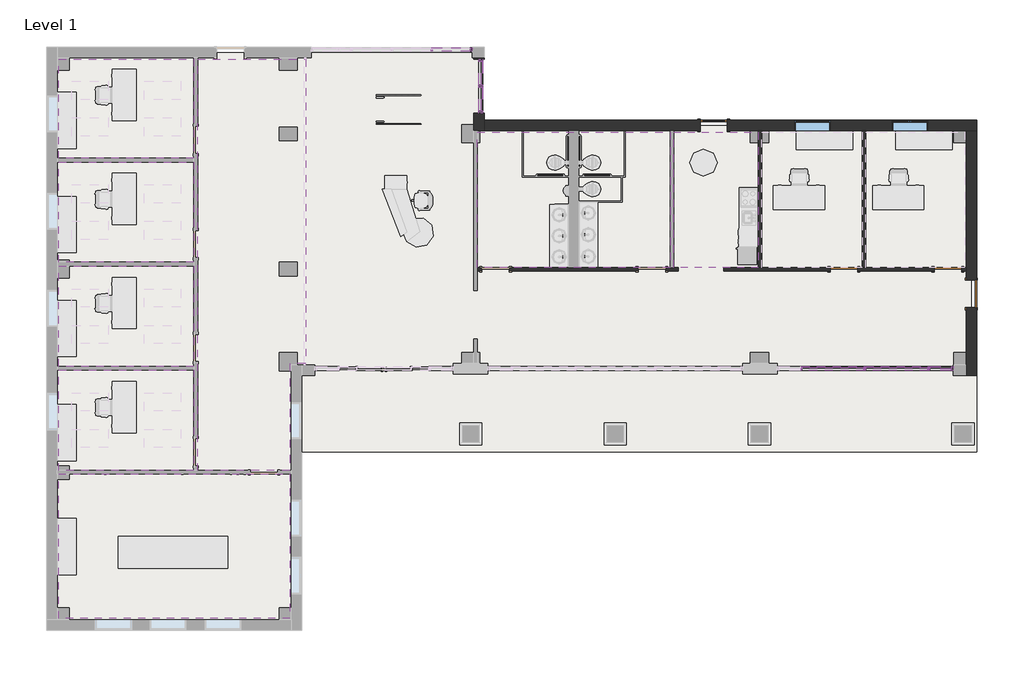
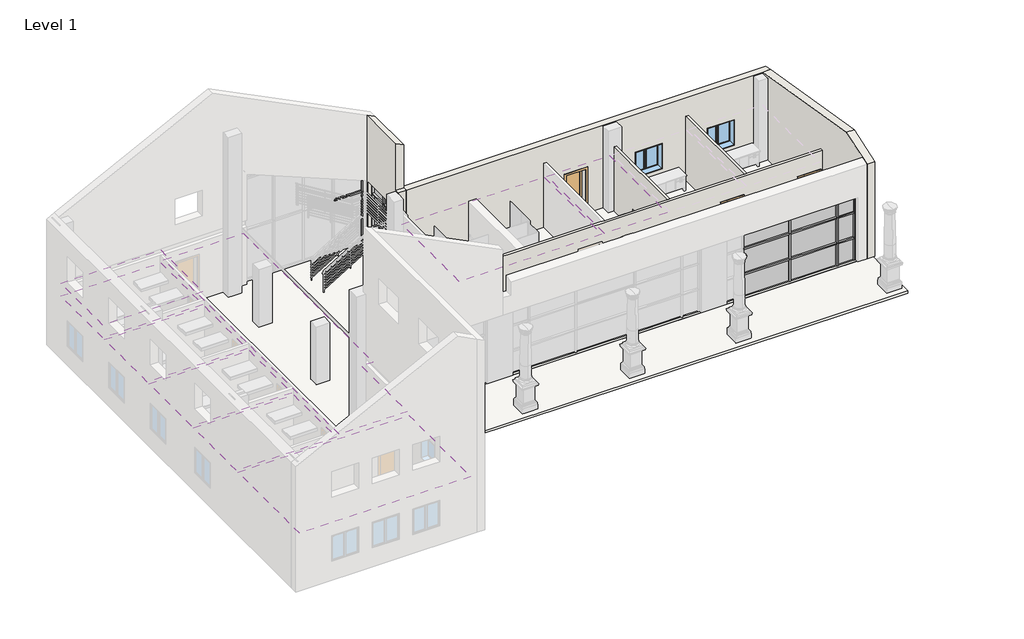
# One storey, part 3 of 8: 34 members, 13 plates, 9 coverings, 6 walls, 4 doors, 2 slabs, 2 windows.
"""IFC4 building model written with IfcOpenShell, lengths in millimetres."""

from ifc_helpers import new_model, si_unit, point, frame, origin, origin_with_axes, place, context, project, spatial, polyline, ellipse_curve, trimmed, outline, extrude, faceted_brep, transform, mapped, element, save
from ifc_brep_helpers import plane_surface, extruded_surface, advanced_brep
from components import door_cc5399a4, door_88503111, door_14e9a3b2, member_a715cb85, member_2b49869a, member_4f1c84db, member_a43dcf29, member_c4de40ee, member_75074519, member_3374d9b6, member_c17f1be2, member_f0fea5a5, member_ee409385, member_7fd7503d, member_c48a49bf, member_ba1b3d85, member_3ca69e07, member_338de68b, member_7b5ecba7, member_8ee6d85e, member_21124f0b, member_e196a3dc, system_panel_glazed_93fe6fa7, system_panel_glazed_6ce5e085, system_panel_glazed_6c402c5f, system_panel_glazed_28aac04d, system_panel_glazed_c8a6c6c5, system_panel_glazed_ef97d2b3, system_panel_glazed_2372a917, system_panel_solid_fb0cd2a2, window_75435c65

model = new_model("IFC4")

# Units and contexts
model_context = context("Model", 3, world=origin())
ifc_project = project(units=[si_unit("LENGTHUNIT", "METRE", prefix="MILLI")], contexts=[model_context])

# Site, building, storey
site = spatial("IfcSite", under=ifc_project)
building = spatial("IfcBuilding", under=site)
storey = spatial("IfcBuildingStorey", under=building, Name="Level 1", Elevation=0.0)

# Coverings
placement = place(None, origin())
element("IfcCovering", 1, ObjectType="2' x 4' ACT System", at=placement, inside=storey, context=model_context, shape_type="SweptSolid", body=[
    extrude(outline(polyline([(-9011.7016552, 7211.1980424), (-13532.9016552, 7211.1980424), (-13532.9016552, 10517.9605424), (-9011.7016552, 10517.9605424), (-9011.7016552, 7211.1980424)])), frame((0.0, 0.0, 3048.0), z_axis=(0.0, 0.0, 1.0), x_axis=(1.0, 0.0, 0.0)), (0.0, 0.0, 1.0), 57.15),
])
element("IfcCovering", 2, ObjectType="2' x 4' ACT System", at=placement, inside=storey, context=model_context, shape_type="SweptSolid", body=[
    extrude(outline(polyline([(-9011.7016552, 10517.9605424), (-9011.7016552, 7211.1980424), (-13532.9016552, 7211.1980424), (-13532.9016552, 10517.9605424), (-9011.7016552, 10517.9605424)]), holes=[polyline([(-11881.9016552, 9778.9792924), (-13101.1016552, 9778.9792924), (-13101.1016552, 9169.3792924), (-11881.9016552, 9169.3792924), (-11881.9016552, 9778.9792924)]), polyline([(-9443.5016552, 9778.9792924), (-10662.7016552, 9778.9792924), (-10662.7016552, 9169.3792924), (-9443.5016552, 9169.3792924), (-9443.5016552, 9778.9792924)]), polyline([(-9443.5016552, 8559.7792924), (-10662.7016552, 8559.7792924), (-10662.7016552, 7950.1792924), (-9443.5016552, 7950.1792924), (-9443.5016552, 8559.7792924)]), polyline([(-11881.9016552, 8559.7792924), (-13101.1016552, 8559.7792924), (-13101.1016552, 7950.1792924), (-11881.9016552, 7950.1792924), (-11881.9016552, 8559.7792924)])]), frame((0.0, 0.0, 2438.4), z_axis=(0.0, 0.0, 1.0), x_axis=(1.0, 0.0, 0.0)), (0.0, 0.0, 1.0), 57.15),
])
element("IfcCovering", 3, ObjectType="2' x 4' ACT System", at=placement, inside=storey, context=model_context, shape_type="SweptSolid", body=[
    extrude(outline(polyline([(-13532.9016552, 7087.3730424), (-9011.7016552, 7087.3730424), (-9011.7016552, 3729.8105424), (-13532.9016552, 3729.8105424), (-13532.9016552, 7087.3730424)]), holes=[polyline([(-11881.9016552, 5713.3917924), (-11881.9016552, 6322.9917924), (-13101.1016552, 6322.9917924), (-13101.1016552, 5713.3917924), (-11881.9016552, 5713.3917924)]), polyline([(-10662.7016552, 5713.3917924), (-9443.5016552, 5713.3917924), (-9443.5016552, 6322.9917924), (-10662.7016552, 6322.9917924), (-10662.7016552, 5713.3917924)]), polyline([(-10662.7016552, 4494.1917924), (-9443.5016552, 4494.1917924), (-9443.5016552, 5103.7917924), (-10662.7016552, 5103.7917924), (-10662.7016552, 4494.1917924)]), polyline([(-11881.9016552, 5103.7917924), (-13101.1016552, 5103.7917924), (-13101.1016552, 4494.1917924), (-11881.9016552, 4494.1917924), (-11881.9016552, 5103.7917924)])]), frame((0.0, 0.0, 2438.4), z_axis=(0.0, 0.0, 1.0), x_axis=(1.0, 0.0, 0.0)), (0.0, 0.0, 1.0), 57.15),
])
element("IfcCovering", 4, ObjectType="2' x 4' ACT System", at=placement, inside=storey, context=model_context, shape_type="SweptSolid", body=[
    extrude(outline(polyline([(-13532.9016552, 3605.9855424), (-9011.7016552, 3605.9855424), (-9011.7016552, 248.4230424), (-13532.9016552, 248.4230424), (-13532.9016552, 3605.9855424)]), holes=[polyline([(-11881.9016552, 2232.0042924), (-11881.9016552, 2841.6042924), (-13101.1016552, 2841.6042924), (-13101.1016552, 2232.0042924), (-11881.9016552, 2232.0042924)]), polyline([(-10662.7016552, 2232.0042924), (-9443.5016552, 2232.0042924), (-9443.5016552, 2841.6042924), (-10662.7016552, 2841.6042924), (-10662.7016552, 2232.0042924)]), polyline([(-10662.7016552, 1012.8042924), (-9443.5016552, 1012.8042924), (-9443.5016552, 1622.4042924), (-10662.7016552, 1622.4042924), (-10662.7016552, 1012.8042924)]), polyline([(-11881.9016552, 1622.4042924), (-13101.1016552, 1622.4042924), (-13101.1016552, 1012.8042924), (-11881.9016552, 1012.8042924), (-11881.9016552, 1622.4042924)])]), frame((0.0, 0.0, 2438.4), z_axis=(0.0, 0.0, 1.0), x_axis=(1.0, 0.0, 0.0)), (0.0, 0.0, 1.0), 57.15),
])
element("IfcCovering", 5, ObjectType="2' x 4' ACT System", at=placement, inside=storey, context=model_context, shape_type="SweptSolid", body=[
    extrude(outline(polyline([(-13532.9016552, 124.5980424), (-9011.7016552, 124.5980424), (-9011.7016552, -3232.9644576), (-13532.9016552, -3232.9644576), (-13532.9016552, 124.5980424)]), holes=[polyline([(-11881.9016552, -1249.3832076), (-11881.9016552, -639.7832076), (-13101.1016552, -639.7832076), (-13101.1016552, -1249.3832076), (-11881.9016552, -1249.3832076)]), polyline([(-10662.7016552, -1249.3832076), (-9443.5016552, -1249.3832076), (-9443.5016552, -639.7832076), (-10662.7016552, -639.7832076), (-10662.7016552, -1249.3832076)]), polyline([(-10662.7016552, -2468.5832076), (-9443.5016552, -2468.5832076), (-9443.5016552, -1858.9832076), (-10662.7016552, -1858.9832076), (-10662.7016552, -2468.5832076)]), polyline([(-11881.9016552, -1858.9832076), (-13101.1016552, -1858.9832076), (-13101.1016552, -2468.5832076), (-11881.9016552, -2468.5832076), (-11881.9016552, -1858.9832076)])]), frame((0.0, 0.0, 2438.4), z_axis=(0.0, 0.0, 1.0), x_axis=(1.0, 0.0, 0.0)), (0.0, 0.0, 1.0), 57.15),
])
element("IfcCovering", 6, ObjectType="5/8\" GWB on Mtl. Stud", at=placement, inside=storey, context=model_context, shape_type="SweptSolid", body=[
    extrude(outline(polyline([(-13532.9016552, -3356.7894576), (-5804.9516552, -3356.7894576), (-5804.9516552, -8182.7894576), (-13532.9016552, -8182.7894576), (-13532.9016552, -3356.7894576)])), frame((0.0, 0.0, 2438.4), z_axis=(0.0, 0.0, 1.0), x_axis=(1.0, 0.0, 0.0)), (0.0, 0.0, 1.0), 107.95),
])
element("IfcCovering", 7, ObjectType="5/8\" GWB on Mtl. Stud", at=placement, inside=storey, context=model_context, shape_type="SweptSolid", body=[
    extrude(outline(polyline([(6904.5733448, 3558.3605424), (465.6733448, 3558.3605424), (465.6733448, 8079.5605424), (6904.5733448, 8079.5605424), (6904.5733448, 3558.3605424)])), frame((0.0, 0.0, 2438.4), z_axis=(0.0, 0.0, 1.0), x_axis=(1.0, 0.0, 0.0)), (0.0, 0.0, 1.0), 107.95),
])
element("IfcCovering", 8, ObjectType="5/8\" GWB on Mtl. Stud", at=placement, inside=storey, context=model_context, shape_type="SweptSolid", body=[
    extrude(outline(polyline([(9847.7983448, 3558.3605424), (7028.3983448, 3558.3605424), (7028.3983448, 8079.5605424), (9847.7983448, 8079.5605424), (9847.7983448, 3558.3605424)])), frame((0.0, 0.0, 2438.4), z_axis=(0.0, 0.0, 1.0), x_axis=(1.0, 0.0, 0.0)), (0.0, 0.0, 1.0), 107.95),
])
element("IfcCovering", 9, ObjectType="5/8\" GWB on Mtl. Stud", at=placement, inside=storey, context=model_context, shape_type="Brep", body=[
    faceted_brep([(-5804.9516552, -3232.9644576, 2647.95), (-5804.9516552, 351.6105424, 2647.95), (-5323.9391552, 351.6105424, 2647.95), (-5273.1391552, 351.6105424, 2647.95), (-5273.1391552, 10517.9605424, 2647.95), (-5323.9391552, 10517.9605424, 2647.95), (-8887.8766552, 10517.9605424, 2647.95), (-8887.8766552, -3232.9644576, 2647.95), (-6160.5516552, 3729.8105424, 2647.95), (-5550.9516552, 3729.8105424, 2647.95), (-5550.9516552, 3272.6105424, 2647.95), (-6160.5516552, 3272.6105424, 2647.95), (-6160.5516552, 8257.3605424, 2647.95), (-5550.9516552, 8257.3605424, 2647.95), (-5550.9516552, 7800.1605424, 2647.95), (-6160.5516552, 7800.1605424, 2647.95), (-5804.9516552, 351.6105424, 2540.0), (-5804.9516552, -3232.9644576, 2540.0), (-8887.8766552, -3232.9644576, 2540.0), (-8887.8766552, 10517.9605424, 2540.0), (-5323.9391552, 10517.9605424, 2540.0), (-5273.1391552, 10517.9605424, 2540.0), (-5273.1391552, 351.6105424, 2540.0), (-5323.9391552, 351.6105424, 2540.0), (-5550.9516552, 3729.8105424, 2540.0), (-6160.5516552, 3729.8105424, 2540.0), (-6160.5516552, 3272.6105424, 2540.0), (-5550.9516552, 3272.6105424, 2540.0), (-5550.9516552, 8257.3605424, 2540.0), (-6160.5516552, 8257.3605424, 2540.0), (-6160.5516552, 7800.1605424, 2540.0), (-5550.9516552, 7800.1605424, 2540.0)], [[[0, 1, 2, 3, 4, 5, 6, 7], [8, 9, 10, 11], [12, 13, 14, 15]], [[16, 17, 18, 19, 20, 21, 22, 23], [24, 25, 26, 27], [28, 29, 30, 31]], [[1, 0, 17, 16]], [[3, 2, 1, 16, 23, 22]], [[4, 3, 22, 21]], [[6, 5, 4, 21, 20, 19]], [[7, 6, 19, 18]], [[0, 7, 18, 17]], [[24, 9, 8, 25]], [[25, 8, 11, 26]], [[26, 11, 10, 27]], [[9, 24, 27, 10]], [[28, 13, 12, 29]], [[29, 12, 15, 30]], [[30, 15, 14, 31]], [[13, 28, 31, 14]]]),
])

# Doors
door_shape = door_cc5399a4(model_context)
element("IfcDoor", 10, ObjectType="Single-Flush : 36\" x 84\"", at=placement, inside=storey, context=model_context, shape_type="MappedRepresentation", body=[
    mapped(door_shape, transform((16977.2608448, 2672.5355424, 0.0), x_axis=(0.0, 1.0, 0.0), y_axis=(-1.0, 0.0, 0.0), z_axis=(0.0, 0.0, 1.0))),
])
door_2_shape = door_88503111(model_context)
element("IfcDoor", 11, ObjectType="Single-Flush : 36\" x 84\"", at=placement, inside=storey, context=model_context, shape_type="MappedRepresentation", body=[
    mapped(door_2_shape, transform((16191.4483448, 3496.4480424, 0.0), x_axis=(1.0, 0.0, 0.0), y_axis=(0.0, 1.0, 0.0), z_axis=(0.0, 0.0, 1.0))),
])
element("IfcDoor", 12, ObjectType="Single-Flush : 36\" x 84\"", at=placement, inside=storey, context=model_context, shape_type="MappedRepresentation", body=[
    mapped(door_2_shape, transform((12714.8233448, 3496.4480424, 0.0), x_axis=(1.0, 0.0, 0.0), y_axis=(0.0, 1.0, 0.0), z_axis=(0.0, 0.0, 1.0))),
])
door_3_shape = door_14e9a3b2(model_context)
element("IfcDoor", 13, ObjectType="Single-Glass 1 : 36\" x 84\"", at=placement, inside=storey, context=model_context, shape_type="MappedRepresentation", body=[
    mapped(door_3_shape, transform((8365.0733448, 8306.5730424, 0.0), x_axis=(1.0, 0.0, 0.0), y_axis=(0.0, 1.0, 0.0), z_axis=(0.0, 0.0, 1.0))),
])

# Members
member_shape = member_a715cb85(model_context)
element("IfcMember", 14, ObjectType="Rectangular Mullion : 2.5\" x 5\" Rectangular", at=placement, inside=storey, context=model_context, shape_type="MappedRepresentation", body=[
    mapped(member_shape, transform((13414.9108448, 175.3980424, 0.0), x_axis=(1.0, 0.0, 0.0), y_axis=(0.0, -1.0, 0.0), z_axis=(0.0, 0.0, -1.0))),
])
element("IfcMember", 15, ObjectType="Rectangular Mullion : 2.5\" x 5\" Rectangular", at=placement, inside=storey, context=model_context, shape_type="MappedRepresentation", body=[
    mapped(member_shape, transform((15548.5108448, 175.3980424, 0.0), x_axis=(1.0, 0.0, 0.0), y_axis=(0.0, -1.0, 0.0), z_axis=(0.0, 0.0, -1.0))),
])
member_2_shape = member_2b49869a(model_context)
element("IfcMember", 16, ObjectType="Rectangular Mullion : 2.5\" x 5\" Rectangular", at=placement, inside=storey, context=model_context, shape_type="MappedRepresentation", body=[
    mapped(member_2_shape, transform((13414.9108448, 175.3980424, 1066.8), x_axis=(1.0, 0.0, 0.0), y_axis=(0.0, -1.0, 0.0), z_axis=(0.0, 0.0, -1.0))),
])
element("IfcMember", 17, ObjectType="Rectangular Mullion : 2.5\" x 5\" Rectangular", at=placement, inside=storey, context=model_context, shape_type="MappedRepresentation", body=[
    mapped(member_2_shape, transform((15548.5108448, 175.3980424, 1066.8), x_axis=(1.0, 0.0, 0.0), y_axis=(0.0, -1.0, 0.0), z_axis=(0.0, 0.0, -1.0))),
])
member_3_shape = member_4f1c84db(model_context)
element("IfcMember", 18, ObjectType="Rectangular Mullion : 2.5\" x 5\" Rectangular", at=placement, inside=storey, context=model_context, shape_type="MappedRepresentation", body=[
    mapped(member_3_shape, transform((15516.7608448, 175.3980424, 2286.0), x_axis=(0.0, 0.0, 1.0), y_axis=(0.0, -1.0, 0.0), z_axis=(1.0, 0.0, 0.0))),
])
element("IfcMember", 19, ObjectType="Rectangular Mullion : 2.5\" x 5\" Rectangular", at=placement, inside=storey, context=model_context, shape_type="MappedRepresentation", body=[
    mapped(member_3_shape, transform((13383.1608448, 175.3980424, 2286.0), x_axis=(0.0, 0.0, 1.0), y_axis=(0.0, -1.0, 0.0), z_axis=(1.0, 0.0, 0.0))),
])
element("IfcMember", 20, ObjectType="Rectangular Mullion : 2.5\" x 5\" Rectangular", at=placement, inside=storey, context=model_context, shape_type="MappedRepresentation", body=[
    mapped(member_3_shape, transform((13383.1608448, 175.3980424, 1066.8), x_axis=(0.0, 0.0, 1.0), y_axis=(0.0, -1.0, 0.0), z_axis=(1.0, 0.0, 0.0))),
])
element("IfcMember", 21, ObjectType="Rectangular Mullion : 2.5\" x 5\" Rectangular", at=placement, inside=storey, context=model_context, shape_type="MappedRepresentation", body=[
    mapped(member_3_shape, transform((15516.7608448, 175.3980424, 1066.8), x_axis=(0.0, 0.0, 1.0), y_axis=(0.0, -1.0, 0.0), z_axis=(1.0, 0.0, 0.0))),
])
member_4_shape = member_a43dcf29(model_context)
element("IfcMember", 22, ObjectType="Rectangular Mullion : 2.5\" x 5\" Rectangular", at=placement, inside=storey, context=model_context, shape_type="MappedRepresentation", body=[
    mapped(member_4_shape, transform((16304.1608448, 175.3980424, 2286.0), x_axis=(0.0, 0.0, 1.0), y_axis=(0.0, -1.0, 0.0), z_axis=(1.0, 0.0, 0.0))),
])
element("IfcMember", 23, ObjectType="Rectangular Mullion : 2.5\" x 5\" Rectangular", at=placement, inside=storey, context=model_context, shape_type="MappedRepresentation", body=[
    mapped(member_4_shape, transform((16304.1608448, 175.3980424, 1066.8), x_axis=(0.0, 0.0, 1.0), y_axis=(0.0, -1.0, 0.0), z_axis=(1.0, 0.0, 0.0))),
])
member_5_shape = member_c4de40ee(model_context)
element("IfcMember", 24, ObjectType="Rectangular Mullion : 2.5\" x 5\" Rectangular", at=placement, inside=storey, context=model_context, shape_type="MappedRepresentation", body=[
    mapped(member_5_shape, transform((16367.6608448, 175.3980424, 0.0), x_axis=(1.0, 0.0, 0.0), y_axis=(0.0, -1.0, 0.0), z_axis=(0.0, 0.0, -1.0))),
])
member_6_shape = member_75074519(model_context)
element("IfcMember", 25, ObjectType="Rectangular Mullion : 2.5\" x 5\" Rectangular", at=placement, inside=storey, context=model_context, shape_type="MappedRepresentation", body=[
    mapped(member_6_shape, transform((16367.6608448, 175.3980424, 1066.8), x_axis=(1.0, 0.0, 0.0), y_axis=(0.0, -1.0, 0.0), z_axis=(0.0, 0.0, -1.0))),
])
member_7_shape = member_3374d9b6(model_context)
element("IfcMember", 26, ObjectType="Rectangular Mullion : 2.5\" x 5\" Rectangular", at=placement, inside=storey, context=model_context, shape_type="MappedRepresentation", body=[
    mapped(member_7_shape, transform((15548.5108448, 175.3980424, 3060.0), x_axis=(0.0, 0.0, 1.0), y_axis=(0.0, -1.0, 0.0), z_axis=(1.0, 0.0, 0.0))),
])
element("IfcMember", 27, ObjectType="Rectangular Mullion : 2.5\" x 5\" Rectangular", at=placement, inside=storey, context=model_context, shape_type="MappedRepresentation", body=[
    mapped(member_7_shape, transform((13414.9108448, 175.3980424, 3060.0), x_axis=(0.0, 0.0, 1.0), y_axis=(0.0, -1.0, 0.0), z_axis=(1.0, 0.0, 0.0))),
])
member_8_shape = member_c17f1be2(model_context)
element("IfcMember", 28, ObjectType="Rectangular Mullion : 2.5\" x 5\" Rectangular", at=placement, inside=storey, context=model_context, shape_type="MappedRepresentation", body=[
    mapped(member_8_shape, transform((16367.6608448, 175.3980424, 3060.0), x_axis=(0.0, 0.0, 1.0), y_axis=(0.0, -1.0, 0.0), z_axis=(1.0, 0.0, 0.0))),
])
member_9_shape = member_f0fea5a5(model_context)
element("IfcMember", 29, ObjectType="Rectangular Mullion : 2.5\" x 5\" Rectangular", at=placement, inside=storey, context=model_context, shape_type="MappedRepresentation", body=[
    mapped(member_9_shape, transform((581.5608448, 9615.4667924, 0.0), x_axis=(0.0, -1.0, 0.0), y_axis=(-1.0, 0.0, 0.0), z_axis=(0.0, 0.0, -1.0))),
])
member_10_shape = member_ee409385(model_context)
element("IfcMember", 30, ObjectType="Rectangular Mullion : 2.5\" x 5\" Rectangular", at=placement, inside=storey, context=model_context, shape_type="MappedRepresentation", body=[
    mapped(member_10_shape, transform((291.0483448, 10846.5730424, 0.0), x_axis=(1.0, 0.0, 0.0), y_axis=(0.0, -1.0, 0.0), z_axis=(0.0, 0.0, -1.0))),
])
element("IfcMember", 31, ObjectType="Rectangular Mullion : 2.5\" x 5\" Rectangular", at=placement, inside=storey, context=model_context, shape_type="MappedRepresentation", body=[
    mapped(member_10_shape, transform((581.5608448, 8712.9730424, 0.0), x_axis=(0.0, -1.0, 0.0), y_axis=(-1.0, 0.0, 0.0), z_axis=(0.0, 0.0, -1.0))),
])
element("IfcMember", 32, ObjectType="Rectangular Mullion : 2.5\" x 5\" Rectangular", at=placement, inside=storey, context=model_context, shape_type="MappedRepresentation", body=[
    mapped(member_10_shape, transform((581.5608448, 10517.9605424, 2438.4), x_axis=(0.0, 1.0, 0.0), y_axis=(-1.0, 0.0, 0.0), z_axis=(0.0, 0.0, 1.0))),
])
member_11_shape = member_7fd7503d(model_context)
element("IfcMember", 33, ObjectType="Rectangular Mullion : 2.5\" x 5\" Rectangular", at=placement, inside=storey, context=model_context, shape_type="MappedRepresentation", body=[
    mapped(member_11_shape, transform((581.5608448, 8776.4730424, 3060.0), x_axis=(0.0, 0.0, 1.0), y_axis=(-1.0, 0.0, 0.0), z_axis=(0.0, -1.0, 0.0))),
])
element("IfcMember", 34, ObjectType="Rectangular Mullion : 2.5\" x 5\" Rectangular", at=placement, inside=storey, context=model_context, shape_type="MappedRepresentation", body=[
    mapped(member_11_shape, transform((581.5608448, 9647.2167924, 3060.0), x_axis=(0.0, 0.0, 1.0), y_axis=(-1.0, 0.0, 0.0), z_axis=(0.0, -1.0, 0.0))),
])
element("IfcMember", 35, ObjectType="Rectangular Mullion : 2.5\" x 5\" Rectangular", at=placement, inside=storey, context=model_context, shape_type="MappedRepresentation", body=[
    mapped(member_11_shape, transform((581.5608448, 10454.4605424, 0.0), x_axis=(0.0, 0.0, -1.0), y_axis=(-1.0, 0.0, 0.0), z_axis=(0.0, 1.0, 0.0))),
])
element("IfcMember", 36, ObjectType="Rectangular Mullion : 2.5\" x 5\" Rectangular", at=placement, inside=storey, context=model_context, shape_type="MappedRepresentation", body=[
    mapped(member_11_shape, transform((581.5608448, 9583.7167924, 0.0), x_axis=(0.0, 0.0, -1.0), y_axis=(-1.0, 0.0, 0.0), z_axis=(0.0, 1.0, 0.0))),
])
member_12_shape = member_c48a49bf(model_context)
element("IfcMember", 37, ObjectType="Rectangular Mullion : 2.5\" x 5\" Rectangular", at=placement, inside=storey, context=model_context, shape_type="MappedRepresentation", body=[
    mapped(member_12_shape, transform((581.5608448, 9647.2167924, 2438.4), x_axis=(0.0, 0.0, 1.0), y_axis=(-1.0, 0.0, 0.0), z_axis=(0.0, -1.0, 0.0))),
])
element("IfcMember", 38, ObjectType="Rectangular Mullion : 2.5\" x 5\" Rectangular", at=placement, inside=storey, context=model_context, shape_type="MappedRepresentation", body=[
    mapped(member_12_shape, transform((581.5608448, 8776.4730424, 2438.4), x_axis=(0.0, 0.0, 1.0), y_axis=(-1.0, 0.0, 0.0), z_axis=(0.0, -1.0, 0.0))),
])
member_13_shape = member_ba1b3d85(model_context)
element("IfcMember", 39, ObjectType="Rectangular Mullion : 2.5\" x 5\" Rectangular", at=placement, inside=storey, context=model_context, shape_type="MappedRepresentation", body=[
    mapped(member_13_shape, transform((227.5483448, 10846.5730424, 2438.4), x_axis=(0.0, 0.0, 1.0), y_axis=(0.0, -1.0, 0.0), z_axis=(1.0, 0.0, 0.0))),
])
member_14_shape = member_3ca69e07(model_context)
element("IfcMember", 40, ObjectType="Rectangular Mullion : 2.5\" x 5\" Rectangular", at=placement, inside=storey, context=model_context, shape_type="MappedRepresentation", body=[
    mapped(member_14_shape, transform((13414.9108448, 175.3980424, 2286.0), x_axis=(1.0, 0.0, 0.0), y_axis=(0.0, -1.0, 0.0), z_axis=(0.0, 0.0, -1.0))),
])
element("IfcMember", 41, ObjectType="Rectangular Mullion : 2.5\" x 5\" Rectangular", at=placement, inside=storey, context=model_context, shape_type="MappedRepresentation", body=[
    mapped(member_14_shape, transform((15548.5108448, 175.3980424, 2286.0), x_axis=(1.0, 0.0, 0.0), y_axis=(0.0, -1.0, 0.0), z_axis=(0.0, 0.0, -1.0))),
])
member_15_shape = member_338de68b(model_context)
element("IfcMember", 42, ObjectType="Rectangular Mullion : 2.5\" x 5\" Rectangular", at=placement, inside=storey, context=model_context, shape_type="MappedRepresentation", body=[
    mapped(member_15_shape, transform((16367.6608448, 175.3980424, 2286.0), x_axis=(1.0, 0.0, 0.0), y_axis=(0.0, -1.0, 0.0), z_axis=(0.0, 0.0, -1.0))),
])
member_16_shape = member_7b5ecba7(model_context)
element("IfcMember", 43, ObjectType="Rectangular Mullion : 2.5\" x 5\" Rectangular", at=placement, inside=storey, context=model_context, shape_type="MappedRepresentation", body=[
    mapped(member_16_shape, transform((291.0483448, 10846.5730424, 3060.0), x_axis=(0.37916366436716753, 0.0, 0.9253296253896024), y_axis=(0.0, -1.0, 0.0), z_axis=(0.9253296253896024, 0.0, -0.37916366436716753))),
])
member_17_shape = member_8ee6d85e(model_context)
element("IfcMember", 44, ObjectType="Rectangular Mullion : 2.5\" x 5\" Rectangular", at=placement, inside=storey, context=model_context, shape_type="MappedRepresentation", body=[
    mapped(member_17_shape, transform((291.0483448, 10846.5730424, 2438.4), x_axis=(1.0, 0.0, 0.0), y_axis=(0.0, -1.0, 0.0), z_axis=(0.0, 0.0, -1.0))),
])
member_18_shape = member_21124f0b(model_context)
element("IfcMember", 45, ObjectType="Rectangular Mullion : 2.5\" x 5\" Rectangular", at=placement, inside=storey, context=model_context, shape_type="MappedRepresentation", body=[
    mapped(member_18_shape, transform((581.5608448, 9615.4667924, 2438.4), x_axis=(0.0, -1.0, 0.0), y_axis=(-1.0, 0.0, 0.0), z_axis=(0.0, 0.0, -1.0))),
])
member_19_shape = member_e196a3dc(model_context)
element("IfcMember", 46, ObjectType="Rectangular Mullion : 2.5\" x 5\" Rectangular", at=placement, inside=storey, context=model_context, shape_type="MappedRepresentation", body=[
    mapped(member_19_shape, transform((581.5608448, 8712.9730424, 2438.4), x_axis=(0.0, -1.0, 0.0), y_axis=(-1.0, 0.0, 0.0), z_axis=(0.0, 0.0, -1.0))),
])
element("IfcMember", 47, ObjectType="Rectangular Mullion : 2.5\" x 5\" Rectangular", at=placement, inside=storey, context=model_context, shape_type="MappedRepresentation", body=[
    mapped(member_19_shape, transform((581.5608448, 10517.9605424, 3060.0), x_axis=(0.0, 1.0, 0.0), y_axis=(-1.0, 0.0, 0.0), z_axis=(0.0, 0.0, 1.0))),
])

# Plates
system_panel_glazed_shape = system_panel_glazed_93fe6fa7(model_context)
element("IfcPlate", 48, ObjectType="System Panel : Glazed", at=placement, inside=storey, context=model_context, shape_type="MappedRepresentation", body=[
    mapped(system_panel_glazed_shape, transform((12348.1108448, 175.3980424, 0.0), x_axis=(1.0, 0.0, 0.0), y_axis=(0.0, 1.0, 0.0), z_axis=(0.0, 0.0, 1.0))),
])
element("IfcPlate", 49, ObjectType="System Panel : Glazed", at=placement, inside=storey, context=model_context, shape_type="MappedRepresentation", body=[
    mapped(system_panel_glazed_shape, transform((14481.7108448, 175.3980424, 0.0), x_axis=(1.0, 0.0, 0.0), y_axis=(0.0, 1.0, 0.0), z_axis=(0.0, 0.0, 1.0))),
])
system_panel_glazed_2_shape = system_panel_glazed_6ce5e085(model_context)
element("IfcPlate", 50, ObjectType="System Panel : Glazed", at=placement, inside=storey, context=model_context, shape_type="MappedRepresentation", body=[
    mapped(system_panel_glazed_2_shape, transform((12348.1108448, 175.3980424, 1098.55), x_axis=(1.0, 0.0, 0.0), y_axis=(0.0, 1.0, 0.0), z_axis=(0.0, 0.0, 1.0))),
])
element("IfcPlate", 51, ObjectType="System Panel : Glazed", at=placement, inside=storey, context=model_context, shape_type="MappedRepresentation", body=[
    mapped(system_panel_glazed_2_shape, transform((14481.7108448, 175.3980424, 1098.55), x_axis=(1.0, 0.0, 0.0), y_axis=(0.0, 1.0, 0.0), z_axis=(0.0, 0.0, 1.0))),
])
system_panel_glazed_3_shape = system_panel_glazed_6c402c5f(model_context)
element("IfcPlate", 52, ObjectType="System Panel : Glazed", at=placement, inside=storey, context=model_context, shape_type="MappedRepresentation", body=[
    mapped(system_panel_glazed_3_shape, transform((15942.2108448, 175.3980424, 0.0), x_axis=(1.0, 0.0, 0.0), y_axis=(0.0, 1.0, 0.0), z_axis=(0.0, 0.0, 1.0))),
])
system_panel_glazed_4_shape = system_panel_glazed_28aac04d(model_context)
element("IfcPlate", 53, ObjectType="System Panel : Glazed", at=placement, inside=storey, context=model_context, shape_type="MappedRepresentation", body=[
    mapped(system_panel_glazed_4_shape, transform((15942.2108448, 175.3980424, 1098.55), x_axis=(1.0, 0.0, 0.0), y_axis=(0.0, 1.0, 0.0), z_axis=(0.0, 0.0, 1.0))),
])
system_panel_glazed_5_shape = system_panel_glazed_c8a6c6c5(model_context)
element("IfcPlate", 54, ObjectType="System Panel : Glazed", at=placement, inside=storey, context=model_context, shape_type="MappedRepresentation", body=[
    mapped(system_panel_glazed_5_shape, transform((581.5608448, 10050.8386674, 63.5), x_axis=(0.0, -1.0, 0.0), y_axis=(1.0, 0.0, 0.0), z_axis=(0.0, 0.0, 1.0))),
])
element("IfcPlate", 55, ObjectType="System Panel : Glazed", at=placement, inside=storey, context=model_context, shape_type="MappedRepresentation", body=[
    mapped(system_panel_glazed_5_shape, transform((581.5608448, 9180.0949174, 63.5), x_axis=(0.0, -1.0, 0.0), y_axis=(1.0, 0.0, 0.0), z_axis=(0.0, 0.0, 1.0))),
])
system_panel_glazed_6_shape = system_panel_glazed_ef97d2b3(model_context)
element("IfcPlate", 56, ObjectType="System Panel : Glazed", at=placement, inside=storey, context=model_context, shape_type="MappedRepresentation", body=[
    mapped(system_panel_glazed_6_shape, transform((12348.1108448, 175.3980424, 2317.75), x_axis=(1.0, 0.0, 0.0), y_axis=(0.0, 1.0, 0.0), z_axis=(0.0, 0.0, 1.0))),
])
element("IfcPlate", 57, ObjectType="System Panel : Glazed", at=placement, inside=storey, context=model_context, shape_type="MappedRepresentation", body=[
    mapped(system_panel_glazed_6_shape, transform((14481.7108448, 175.3980424, 2317.75), x_axis=(1.0, 0.0, 0.0), y_axis=(0.0, 1.0, 0.0), z_axis=(0.0, 0.0, 1.0))),
])
system_panel_glazed_7_shape = system_panel_glazed_2372a917(model_context)
element("IfcPlate", 58, ObjectType="System Panel : Glazed", at=placement, inside=storey, context=model_context, shape_type="MappedRepresentation", body=[
    mapped(system_panel_glazed_7_shape, transform((581.5608448, 10050.8386674, 2470.15), x_axis=(0.0, -1.0, 0.0), y_axis=(1.0, 0.0, 0.0), z_axis=(0.0, 0.0, 1.0))),
])
element("IfcPlate", 59, ObjectType="System Panel : Glazed", at=placement, inside=storey, context=model_context, shape_type="MappedRepresentation", body=[
    mapped(system_panel_glazed_7_shape, transform((581.5608448, 9180.0949174, 2470.15), x_axis=(0.0, -1.0, 0.0), y_axis=(1.0, 0.0, 0.0), z_axis=(0.0, 0.0, 1.0))),
])
system_panel_solid_shape = system_panel_solid_fb0cd2a2(model_context)
element("IfcPlate", 60, ObjectType="System Panel : Solid", at=placement, inside=storey, context=model_context, shape_type="MappedRepresentation", body=[
    mapped(system_panel_solid_shape, transform((15942.2108448, 175.3980424, 2317.75), x_axis=(1.0, 0.0, 0.0), y_axis=(0.0, 1.0, 0.0), z_axis=(0.0, 0.0, 1.0))),
])

# Slabs
element("IfcSlab", 61, ObjectType="4\" Concrete Slab", at=placement, inside=storey, context=model_context, shape_type="SweptSolid", body=[
    extrude(outline(polyline([(506.9483448, 10733.8605424), (506.9483448, 8295.4605424), (16966.1483448, 8295.4605424), (16966.1483448, 135.7105424), (518.0608448, 135.7105424), (-5589.0516552, 135.7105424), (-5589.0516552, -8398.6894576), (-13748.8016552, -8398.6894576), (-13748.8016552, 10733.8605424), (506.9483448, 10733.8605424)])), frame((0.0, 0.0, -101.6), z_axis=(0.0, 0.0, 1.0), x_axis=(1.0, 0.0, 0.0)), (0.0, 0.0, 1.0), 101.6),
])
element("IfcSlab", 62, ObjectType="4\" Concrete Slab", at=placement, inside=storey, context=model_context, shape_type="SweptSolid", body=[
    extrude(outline(polyline([(17153.4733448, 124.5980424), (17153.4733448, -2618.6019576), (-5401.7266552, -2618.6019576), (-5401.7266552, 124.5980424), (17153.4733448, 124.5980424)])), frame((0.0, 0.0, -203.2), z_axis=(0.0, 0.0, 1.0), x_axis=(1.0, 0.0, 0.0)), (0.0, 0.0, 1.0), 101.6),
])

# Walls
element("IfcWall", 63, ObjectType="Exterior - Brick on Mtl. Stud", at=placement, inside=storey, context=model_context, shape_type="Brep", body=[
    faceted_brep([(341.8483448, 8306.5730424, 6182.55), (341.8483448, 10568.7605424, 6182.55), (341.8483448, 10568.7605424, 0.0), (341.8483448, 10517.9605424, 0.0), (341.8483448, 10517.9605424, 3060.0), (341.8483448, 8712.9730424, 3060.0), (341.8483448, 8712.9730424, 0.0), (341.8483448, 8333.5605424, 0.0), (341.8483448, 8130.3605424, 0.0), (341.8483448, 8130.3605424, 3060.0), (341.8483448, 8130.3605424, 3958.7375), (341.8483448, 8306.5730424, 3958.7375), (694.2733448, 10568.7605424, 6006.3375), (694.2733448, 8306.5730424, 6006.3375), (694.2733448, 8306.5730424, 3958.7375), (694.2733448, 8130.3605424, 3958.7375), (694.2733448, 8130.3605424, 3060.0), (694.2733448, 8130.3605424, 0.0), (694.2733448, 8482.7855424, 0.0), (694.2733448, 8712.9730424, 0.0), (694.2733448, 8712.9730424, 3060.0), (694.2733448, 10517.9605424, 3060.0), (694.2733448, 10517.9605424, 0.0), (694.2733448, 10568.7605424, 0.0), (545.0483448, 8130.3605424, 0.0), (465.6733448, 8130.3605424, 0.0)], [[[0, 1, 2, 3, 4, 5, 6, 7, 8, 9, 10, 11]], [[12, 13, 14, 15, 16, 17, 18, 19, 20, 21, 22, 23]], [[2, 23, 22, 3]], [[17, 24, 25, 8, 7, 6, 19, 18]], [[1, 0, 13, 12]], [[13, 0, 11, 14]], [[14, 11, 10, 15]], [[8, 25, 24, 17, 16, 15, 10, 9]], [[2, 1, 12, 23]], [[21, 4, 3, 22]], [[4, 21, 20, 5]], [[5, 20, 19, 6]]]),
])
element("IfcWall", 64, ObjectType="Exterior - Brick on Mtl. Stud", at=placement, inside=storey, context=model_context, shape_type="Brep", body=[
    faceted_brep([(8822.2733448, 8130.3605424, 2133.6), (8822.2733448, 8130.3605424, 0.0), (9587.4483448, 8130.3605424, 0.0), (9847.7983448, 8130.3605424, 0.0), (9971.6233448, 8130.3605424, 0.0), (10197.0483448, 8130.3605424, 0.0), (13324.4233448, 8130.3605424, 0.0), (13448.2483448, 8130.3605424, 0.0), (16394.6483448, 8130.3605424, 0.0), (16801.0483448, 8130.3605424, 0.0), (17153.4733448, 8130.3605424, 0.0), (17153.4733448, 8130.3605424, 3958.7375), (16801.0483448, 8130.3605424, 3958.7375), (694.2733448, 8130.3605424, 3958.7375), (694.2733448, 8130.3605424, 0.0), (3513.6733448, 8130.3605424, 0.0), (3856.5733448, 8130.3605424, 0.0), (6904.5733448, 8130.3605424, 0.0), (7028.3983448, 8130.3605424, 0.0), (7907.8733448, 8130.3605424, 0.0), (7907.8733448, 8130.3605424, 2133.6), (12276.6733448, 8130.3605424, 2133.6), (12276.6733448, 8130.3605424, 914.4), (11057.4733448, 8130.3605424, 914.4), (11057.4733448, 8130.3605424, 2133.6), (15527.8733448, 8130.3605424, 2133.6), (15527.8733448, 8130.3605424, 914.4), (14308.6733448, 8130.3605424, 914.4), (14308.6733448, 8130.3605424, 2133.6), (17153.4733448, 8482.7855424, 0.0), (8822.2733448, 8482.7855424, 0.0), (8822.2733448, 8482.7855424, 2133.6), (7907.8733448, 8482.7855424, 2133.6), (7907.8733448, 8482.7855424, 0.0), (694.2733448, 8482.7855424, 0.0), (694.2733448, 8482.7855424, 3900.0), (17153.4733448, 8482.7855424, 3900.0), (12276.6733448, 8482.7855424, 2133.6), (11057.4733448, 8482.7855424, 2133.6), (11057.4733448, 8482.7855424, 914.4), (12276.6733448, 8482.7855424, 914.4), (15527.8733448, 8482.7855424, 2133.6), (14308.6733448, 8482.7855424, 2133.6), (14308.6733448, 8482.7855424, 914.4), (15527.8733448, 8482.7855424, 914.4)], [[[0, 1, 2, 3, 4, 5, 6, 7, 8, 9, 10, 11, 12, 13, 14, 15, 16, 17, 18, 19, 20], [21, 22, 23, 24], [25, 26, 27, 28]], [[29, 30, 31, 32, 33, 34, 35, 36], [37, 38, 39, 40], [41, 42, 43, 44]], [[10, 9, 8, 7, 6, 5, 4, 3, 2, 1, 30, 29]], [[19, 18, 17, 16, 15, 14, 34, 33]], [[31, 30, 1, 0]], [[32, 31, 0, 20]], [[33, 32, 20, 19]], [[22, 21, 37, 40]], [[23, 22, 40, 39]], [[24, 23, 39, 38]], [[21, 24, 38, 37]], [[26, 25, 41, 44]], [[27, 26, 44, 43]], [[28, 27, 43, 42]], [[25, 28, 42, 41]], [[11, 10, 29, 36]], [[13, 35, 34, 14]], [[13, 12, 11, 36, 35]]]),
])
element("IfcWall", 65, ObjectType="Exterior - Brick on Mtl. Stud", at=placement, inside=storey, context=model_context, shape_type="Brep", body=[
    faceted_brep([(16801.0483448, 8130.3605424, 0.0), (16801.0483448, 7723.9605424, 0.0), (16801.0483448, 3558.3605424, 0.0), (16801.0483448, 3434.5355424, 0.0), (16801.0483448, 3129.7355424, 0.0), (16801.0483448, 3129.7355424, 2133.6), (16801.0483448, 2215.3355424, 2133.6), (16801.0483448, 2215.3355424, 0.0), (16801.0483448, 707.2105424, 0.0), (16801.0483448, 300.8105424, 0.0), (16801.0483448, -51.6144576, 0.0), (16801.0483448, -51.6144576, 4509.6), (16801.0483448, 300.8105424, 4627.075), (16801.0483448, 1573.9855424, 5051.4666667), (16801.0483448, 8130.3605424, 3958.7375), (16801.0483448, 8130.3605424, 3900.0), (17153.4733448, 3129.7355424, 2133.6), (17153.4733448, 3129.7355424, 0.0), (17153.4733448, 8130.3605424, 0.0), (17153.4733448, 8130.3605424, 3958.7375), (17153.4733448, 1573.9855424, 5051.4666667), (17153.4733448, -51.6144576, 4509.6), (17153.4733448, -51.6144576, 0.0), (17153.4733448, 2215.3355424, 0.0), (17153.4733448, 2215.3355424, 2133.6)], [[[0, 1, 2, 3, 4, 5, 6, 7, 8, 9, 10, 11, 12, 13, 14, 15]], [[16, 17, 18, 19, 20, 21, 22, 23, 24]], [[23, 22, 10, 9, 8, 7]], [[18, 17, 4, 3, 2, 1, 0]], [[5, 4, 17, 16]], [[6, 5, 16, 24]], [[7, 6, 24, 23]], [[14, 13, 20, 19]], [[13, 12, 11, 21, 20]], [[11, 10, 22, 21]], [[0, 15, 14, 19, 18]]]),
])
element("IfcWall", 66, ObjectType="Interior - 4 7/8\" Partition (1-hr)", at=placement, inside=storey, context=model_context, shape_type="AdvancedBrep", body=[
    advanced_brep(
    [(6752.1733448, 3434.5355424, 0.0), (7180.7983448, 3434.5355424, 0.0), (7180.7983448, 3434.5355424, 1828.8), (8704.7983448, 3434.5355424, 1828.8), (8704.7983448, 3434.5355424, 0.0), (12257.6233448, 3434.5355424, 0.0), (12257.6233448, 3434.5355424, 2133.6), (13172.0233448, 3434.5355424, 2133.6), (13172.0233448, 3434.5355424, 0.0), (15734.2483448, 3434.5355424, 0.0), (15734.2483448, 3434.5355424, 2133.6), (16648.6483448, 3434.5355424, 2133.6), (16648.6483448, 3434.5355424, 0.0), (16801.0483448, 3434.5355424, 0.0), (16801.0483448, 3434.5355424, 3060.0), (465.6733448, 3434.5355424, 3060.0), (465.6733448, 3434.5355424, 0.0), (618.0733448, 3434.5355424, 0.0), (618.0733448, 3434.5355424, 2133.6), (1532.4733448, 3434.5355424, 2133.6), (1532.4733448, 3434.5355424, 0.0), (5837.7733448, 3434.5355424, 0.0), (5837.7733448, 3434.5355424, 2133.6), (6752.1733448, 3434.5355424, 2133.6), (7180.7983448, 3558.3605424, 1828.8), (7180.7983448, 3558.3605424, 0.0), (7028.3983448, 3558.3605424, 0.0), (6904.5733448, 3558.3605424, 0.0), (6752.1733448, 3558.3605424, 0.0), (6752.1733448, 3558.3605424, 2133.6), (5837.7733448, 3558.3605424, 2133.6), (5837.7733448, 3558.3605424, 0.0), (3856.5733448, 3558.3605424, 0.0), (3513.6733448, 3558.3605424, 0.0), (1532.4733448, 3558.3605424, 0.0), (1532.4733448, 3558.3605424, 2133.6), (618.0733448, 3558.3605424, 2133.6), (618.0733448, 3558.3605424, 0.0), (465.6733448, 3558.3605424, 0.0), (465.6733448, 3558.3605424, 3060.0), (6904.5733448, 3558.3605424, 3060.0), (7028.3983448, 3558.3605424, 3060.0), (9847.7983448, 3558.3605424, 3060.0), (9971.6233448, 3558.3605424, 3060.0), (13324.4233448, 3558.3605424, 3060.0), (13448.2483448, 3558.3605424, 3060.0), (16801.0483448, 3558.3605424, 3060.0), (16801.0483448, 3558.3605424, 0.0), (16648.6483448, 3558.3605424, 0.0), (16648.6483448, 3558.3605424, 2133.6), (15734.2483448, 3558.3605424, 2133.6), (15734.2483448, 3558.3605424, 0.0), (13448.2483448, 3558.3605424, 0.0), (13324.4233448, 3558.3605424, 0.0), (13172.0233448, 3558.3605424, 0.0), (13172.0233448, 3558.3605424, 2133.6), (12257.6233448, 3558.3605424, 2133.6), (12257.6233448, 3558.3605424, 0.0), (9971.6233448, 3558.3605424, 0.0), (9847.7983448, 3558.3605424, 0.0), (8704.7983448, 3558.3605424, 0.0), (8704.7983448, 3558.3605424, 1828.8)],
    [
        (0, 1),
        (1, 2),
        (2, 3, ellipse_curve(frame((7942.7983448, 3434.5355424, 1828.8), z_axis=(0.0, 1.0, 0.0), x_axis=(-1.0, 0.0, 0.0)), 762.0, 304.8)),
        (3, 4),
        (4, 5),
        (5, 6),
        (6, 7),
        (7, 8),
        (8, 9),
        (9, 10),
        (10, 11),
        (11, 12),
        (12, 13),
        (13, 14),
        (14, 15),
        (15, 16),
        (16, 17),
        (17, 18),
        (18, 19),
        (19, 20),
        (20, 21),
        (21, 22),
        (22, 23),
        (23, 0),
        (24, 25),
        (25, 26),
        (26, 27),
        (27, 28),
        (28, 29),
        (29, 30),
        (30, 31),
        (31, 32),
        (32, 33),
        (33, 34),
        (34, 35),
        (35, 36),
        (36, 37),
        (37, 38),
        (38, 39),
        (39, 40),
        (40, 41),
        (41, 42),
        (42, 43),
        (43, 44),
        (44, 45),
        (45, 46),
        (46, 47),
        (47, 48),
        (48, 49),
        (49, 50),
        (50, 51),
        (51, 52),
        (52, 53),
        (53, 54),
        (54, 55),
        (55, 56),
        (56, 57),
        (57, 58),
        (58, 59),
        (59, 60),
        (60, 61),
        (61, 24, ellipse_curve(frame((7942.7983448, 3558.3605424, 1828.8), z_axis=(0.0, -1.0, 0.0), x_axis=(-1.0, 0.0, 0.0)), 762.0, 304.8)),
        (12, 48),
        (47, 13),
        (8, 54),
        (51, 9),
        (37, 17),
        (16, 38),
        (31, 21),
        (20, 34),
        (25, 1),
        (0, 28),
        (57, 5),
        (4, 60),
        (14, 46),
        (39, 15),
        (11, 49),
        (10, 50),
        (7, 55),
        (6, 56),
        (23, 29),
        (22, 30),
        (36, 18),
        (35, 19),
        (2, 24),
        (61, 3),
    ],
    [
        plane_surface(frame((2521.2785775, 3434.5355424, 0.0), z_axis=(0.0, -1.0, 0.0), x_axis=(1.0, 0.0, 0.0))),
        plane_surface(frame((2521.2785775, 3558.3605424, 0.0), z_axis=(0.0, 1.0, 0.0), x_axis=(-1.0, 0.0, 0.0))),
        plane_surface(frame((403.7608448, 3434.5355424, 0.0), z_axis=(0.0, 0.0, -1.0), x_axis=(0.0, 1.0, 0.0))),
        plane_surface(frame((16977.2608448, 3434.5355424, 3060.0), z_axis=(0.0, 0.0, 1.0), x_axis=(0.0, 1.0, 0.0))),
        plane_surface(frame((465.6733448, 8306.5730424, 0.0), z_axis=(-1.0, 0.0, 0.0), x_axis=(0.0, 1.0, 0.0))),
        plane_surface(frame((16648.6483448, 3558.3605424, 0.0), z_axis=(-1.0, 0.0, 0.0), x_axis=(0.0, -1.0, 0.0))),
        plane_surface(frame((16648.6483448, 3558.3605424, 2133.6), z_axis=(0.0, 0.0, -1.0), x_axis=(0.0, -1.0, 0.0))),
        plane_surface(frame((15734.2483448, 3558.3605424, 2133.6), z_axis=(1.0, 0.0, 0.0), x_axis=(0.0, -1.0, 0.0))),
        plane_surface(frame((13172.0233448, 3558.3605424, 0.0), z_axis=(-1.0, 0.0, 0.0), x_axis=(0.0, -1.0, 0.0))),
        plane_surface(frame((13172.0233448, 3558.3605424, 2133.6), z_axis=(0.0, 0.0, -1.0), x_axis=(0.0, -1.0, 0.0))),
        plane_surface(frame((12257.6233448, 3558.3605424, 2133.6), z_axis=(1.0, 0.0, 0.0), x_axis=(0.0, -1.0, 0.0))),
        plane_surface(frame((6752.1733448, 3558.3605424, 0.0), z_axis=(-1.0, 0.0, 0.0), x_axis=(0.0, -1.0, 0.0))),
        plane_surface(frame((6752.1733448, 3558.3605424, 2133.6), z_axis=(0.0, 0.0, -1.0), x_axis=(0.0, -1.0, 0.0))),
        plane_surface(frame((5837.7733448, 3558.3605424, 2133.6), z_axis=(1.0, 0.0, 0.0), x_axis=(0.0, -1.0, 0.0))),
        plane_surface(frame((618.0733448, 3434.5355424, 0.0), z_axis=(1.0, 0.0, 0.0), x_axis=(0.0, 1.0, 0.0))),
        plane_surface(frame((618.0733448, 3434.5355424, 2133.6), z_axis=(0.0, 0.0, -1.0), x_axis=(0.0, 1.0, 0.0))),
        plane_surface(frame((1532.4733448, 3434.5355424, 2133.6), z_axis=(-1.0, 0.0, 0.0), x_axis=(0.0, 1.0, 0.0))),
        extruded_surface(trimmed(ellipse_curve(frame((7942.7983448, 3682.1855424, 1828.8), z_axis=(0.0, 1.0, 0.0), x_axis=(-1.0, 0.0, 0.0)), 762.0, 304.8), [point((7180.7983448, 3682.1855424, 1828.8))], [point((8704.7983448, 3682.1855424, 1828.8))], True, "CARTESIAN"), (0.0, -123.82499999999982, 0.0), 123.82499999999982),
        plane_surface(frame((8704.7983448, 3434.5355424, 1828.8), z_axis=(-1.0, 0.0, 0.0), x_axis=(0.0, 1.0, 0.0))),
        plane_surface(frame((7180.7983448, 3434.5355424, 0.0), z_axis=(1.0, 0.0, 0.0), x_axis=(0.0, 1.0, 0.0))),
        plane_surface(frame((16801.0483448, 7181.0355424, 0.0), z_axis=(1.0, 0.0, 0.0), x_axis=(0.0, -1.0, 0.0))),
    ],
    [
        (0, [[1, 2, 3, 4, 5, 6, 7, 8, 9, 10, 11, 12, 13, 14, 15, 16, 17, 18, 19, 20, 21, 22, 23, 24]]),
        (1, [[25, 26, 27, 28, 29, 30, 31, 32, 33, 34, 35, 36, 37, 38, 39, 40, 41, 42, 43, 44, 45, 46, 47, 48, 49, 50, 51, 52, 53, 54, 55, 56, 57, 58, 59, 60, 61, 62]]),
        (2, [[-13, 63, -48, 64]]),
        (2, [[-9, 65, -54, -53, -52, 66]]),
        (2, [[-38, 67, -17, 68]]),
        (2, [[-34, -33, -32, 69, -21, 70]]),
        (2, [[-28, -27, -26, 71, -1, 72]]),
        (2, [[-60, -59, -58, 73, -5, 74]]),
        (3, [[-15, 75, -46, -45, -44, -43, -42, -41, -40, 76]]),
        (4, [[-16, -76, -39, -68]]),
        (5, [[-49, -63, -12, 77]]),
        (6, [[-50, -77, -11, 78]]),
        (7, [[-51, -78, -10, -66]]),
        (8, [[-55, -65, -8, 79]]),
        (9, [[-56, -79, -7, 80]]),
        (10, [[-57, -80, -6, -73]]),
        (11, [[-29, -72, -24, 81]]),
        (12, [[-30, -81, -23, 82]]),
        (13, [[-31, -82, -22, -69]]),
        (14, [[-18, -67, -37, 83]]),
        (15, [[-19, -83, -36, 84]]),
        (16, [[-20, -84, -35, -70]]),
        (17, [[-3, 85, -62, 86]]),
        (18, [[-4, -86, -61, -74]]),
        (19, [[-2, -71, -25, -85]]),
        (20, [[-14, -64, -47, -75]]),
    ],
),
])
element("IfcWall", 67, ObjectType="Interior - 4 7/8\" Partition (1-hr)", at=placement, inside=storey, context=model_context, shape_type="Brep", body=[
    faceted_brep([(9847.7983448, 8130.3605424, 0.0), (9847.7983448, 7723.9605424, 0.0), (9847.7983448, 3558.3605424, 0.0), (9847.7983448, 3558.3605424, 3060.0), (9847.7983448, 7723.9605424, 3060.0), (9847.7983448, 8130.3605424, 3060.0), (9971.6233448, 8130.3605424, 0.0), (9971.6233448, 8130.3605424, 3060.0), (9971.6233448, 7723.9605424, 3060.0), (9971.6233448, 3558.3605424, 3060.0), (9971.6233448, 3558.3605424, 0.0), (9971.6233448, 7723.9605424, 0.0)], [[[0, 1, 2, 3, 4, 5]], [[6, 7, 8, 9, 10, 11]], [[2, 1, 0, 6, 11, 10]], [[5, 4, 3, 9, 8, 7]], [[3, 2, 10, 9]], [[0, 5, 7, 6]]]),
])
element("IfcWall", 68, ObjectType="Interior - 4 7/8\" Partition (1-hr)", at=placement, inside=storey, context=model_context, shape_type="SweptSolid", body=[
    extrude(outline(polyline([(13324.4233448, 3558.3605424), (13324.4233448, 8130.3605424), (13448.2483448, 8130.3605424), (13448.2483448, 3558.3605424), (13324.4233448, 3558.3605424)])), origin_with_axes(), (0.0, 0.0, 1.0), 3060.0),
])

# Windows
window_shape = window_75435c65(model_context)
element("IfcWindow", 69, ObjectType="Casement Double : 48\" x 48\"", at=placement, inside=storey, context=model_context, shape_type="MappedRepresentation", body=[
    mapped(window_shape, transform((11667.0733448, 8287.5230424, 0.0), x_axis=(1.0, 0.0, 0.0), y_axis=(0.0, 1.0, 0.0), z_axis=(0.0, 0.0, 1.0))),
])
element("IfcWindow", 70, ObjectType="Casement Double : 48\" x 48\"", at=placement, inside=storey, context=model_context, shape_type="MappedRepresentation", body=[
    mapped(window_shape, transform((14918.2733448, 8287.5230424, 0.0), x_axis=(1.0, 0.0, 0.0), y_axis=(0.0, 1.0, 0.0), z_axis=(0.0, 0.0, 1.0))),
])

save(model, "model.ifc")
